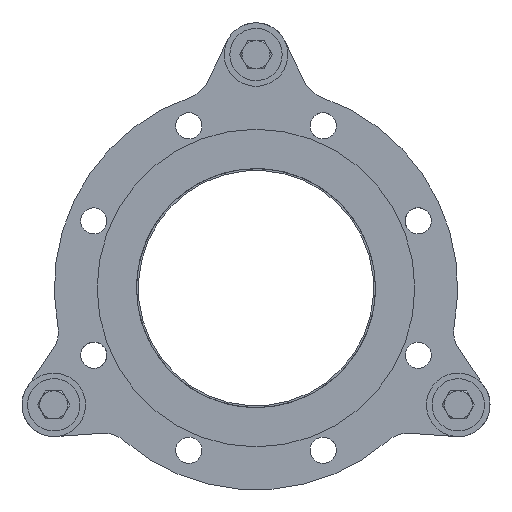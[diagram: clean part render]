
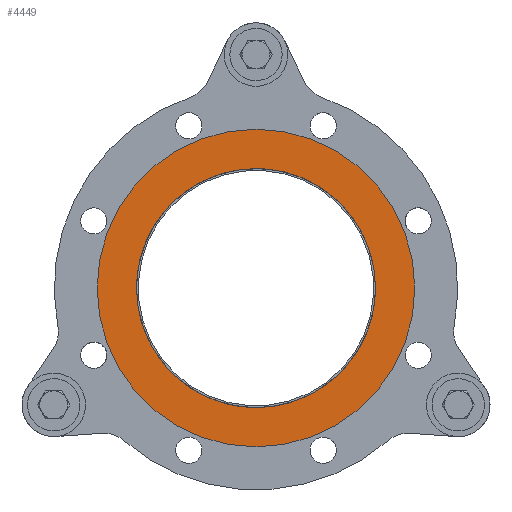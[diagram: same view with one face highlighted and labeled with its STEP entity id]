
A CAD part, front view. The second image highlights one B-rep face of the part: STEP entity #4449.
In plain terms, the highlighted planar face has unit normal (0, -1, 0).
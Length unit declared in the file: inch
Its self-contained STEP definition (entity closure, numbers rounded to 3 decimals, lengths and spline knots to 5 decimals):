
#476=PLANE('',#4861);
#648=FACE_BOUND('',#1239,.T.);
#873=FACE_OUTER_BOUND('',#1238,.T.);
#1238=EDGE_LOOP('',(#3102));
#1239=EDGE_LOOP('',(#3103));
#1759=CIRCLE('',#4857,4.);
#1760=CIRCLE('',#4859,5.3125);
#2075=VERTEX_POINT('',#6946);
#2076=VERTEX_POINT('',#6949);
#2493=EDGE_CURVE('',#2075,#2075,#1759,.T.);
#2494=EDGE_CURVE('',#2076,#2076,#1760,.T.);
#3102=ORIENTED_EDGE('',*,*,#2494,.T.);
#3103=ORIENTED_EDGE('',*,*,#2493,.T.);
#4449=ADVANCED_FACE('',(#873,#648),#476,.T.);
#4857=AXIS2_PLACEMENT_3D('',#6947,#5620,#5621);
#4859=AXIS2_PLACEMENT_3D('',#6950,#5624,#5625);
#4861=AXIS2_PLACEMENT_3D('',#6953,#5628,#5629);
#5620=DIRECTION('center_axis',(0.,1.,0.));
#5621=DIRECTION('ref_axis',(-1.,0.,0.));
#5624=DIRECTION('center_axis',(0.,-1.,0.));
#5625=DIRECTION('ref_axis',(1.,0.,0.));
#5628=DIRECTION('center_axis',(0.,-1.,0.));
#5629=DIRECTION('ref_axis',(0.,0.,
1.));
#6946=CARTESIAN_POINT('',(-4.,0.,0.));
#6947=CARTESIAN_POINT('Origin',(0.,0.,
0.));
#6949=CARTESIAN_POINT('',(-5.3125,0.,0.));
#6950=CARTESIAN_POINT('Origin',(0.,0.,
0.));
#6953=CARTESIAN_POINT('Origin',(0.,0.,
0.));
